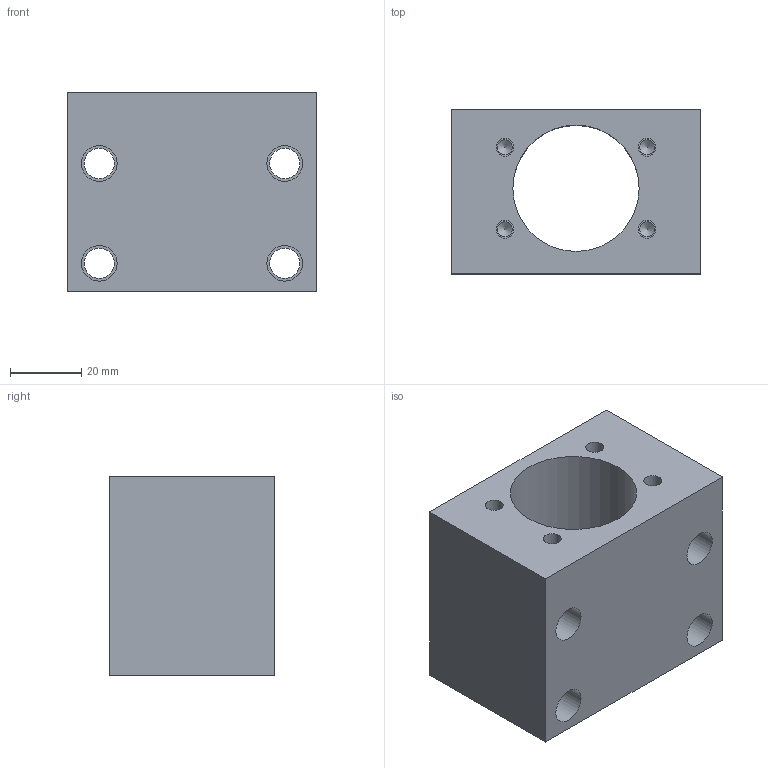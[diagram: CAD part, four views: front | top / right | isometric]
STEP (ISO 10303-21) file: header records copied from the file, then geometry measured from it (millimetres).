
FILE_DESCRIPTION(/* description */ (''),/* implementation_level */ '2;1');
FILE_NAME(/* name */ 'NH20A.stp',/* time_stamp */ '2017-01-05T14:26:23+08:00',/* author */ (''),/* organization */ (''),/* preprocessor_version */ 'ST-DEVELOPER v15',/* originating_system */ 'SIEMENS PLM Software NX 8.5',/* authorisation */ '');
FILE_SCHEMA (('AUTOMOTIVE_DESIGN { 1 0 10303 214 3 1 1 1 }'));
Length unit declared in the file: millimetre
Products named in the file (1): Admi1CF0E4A5a5yn
Bounding box: 70 x 46 x 56 mm (x, y, z)
Volume: 110198.9 mm3; surface area: 29594 mm2
Topology: 1 solids, 1 shells, 43 faces, 92 edges, 63 vertices
Faces by surface type: cylinder 21, plane 18, cone 4
Full cylindrical faces by diameter (mm): 4.2 x4, 5 x4, 8.5 x4, 10 x4, 14 x4, 35.4 x1
Entity records: 1014 total; most frequent: DIRECTION 184, CARTESIAN_POINT 152, ORIENTED_EDGE 108, FACE_BOUND 92, EDGE_LOOP 90, AXIS2_PLACEMENT_3D 86, VERTEX_POINT 54, EDGE_CURVE 54
